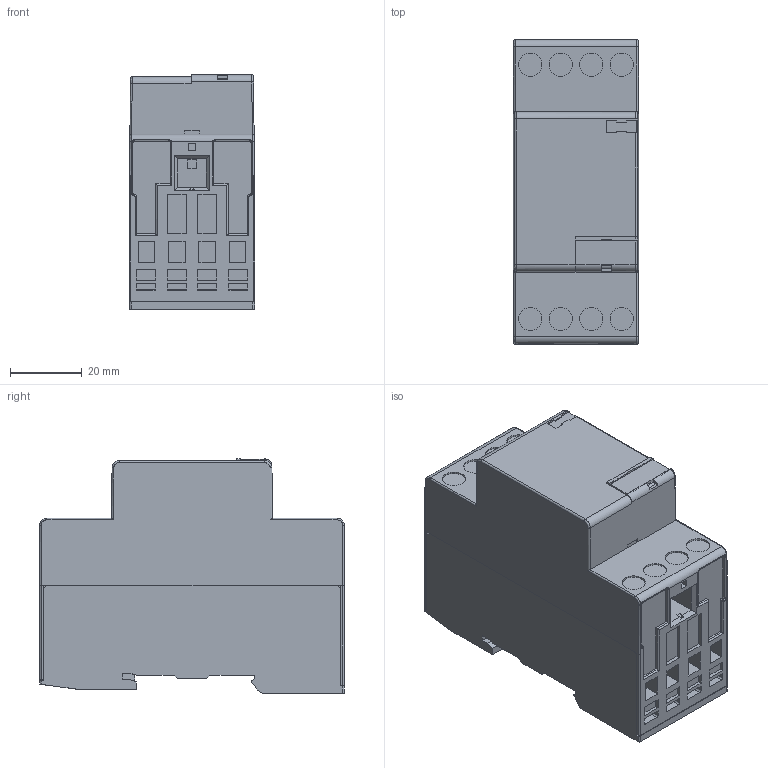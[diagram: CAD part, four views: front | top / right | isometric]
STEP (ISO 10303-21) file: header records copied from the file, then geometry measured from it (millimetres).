
FILE_DESCRIPTION (( 'STEP AP214' ), '1' );
FILE_NAME ('RIC32-040_-220_-310_-400.STEP', '2024-05-01T05:53:20', ( '' ), ( '' ), 'SwSTEP 2.0', 'SolidWorks 2022', '' );
FILE_SCHEMA (( 'AUTOMOTIVE_DESIGN' ));
Length unit declared in the file: millimetre
Products named in the file (1): RIC32-040_-220_-310_-400
Bounding box: 35 x 85 x 65.4 mm (x, y, z)
Volume: 152659.4 mm3; surface area: 32075.8 mm2
Topology: 1 solids, 7 shells, 877 faces, 2446 edges, 1584 vertices
Faces by surface type: plane 728, cylinder 117, bspline 32
Entity records: 38853 total; most frequent: CARTESIAN_POINT 7016, ORIENTED_EDGE 4892, DIRECTION 4113, EDGE_CURVE 2446, LINE 2123, VECTOR 2123, VERTEX_POINT 1584, AXIS2_PLACEMENT_3D 995
